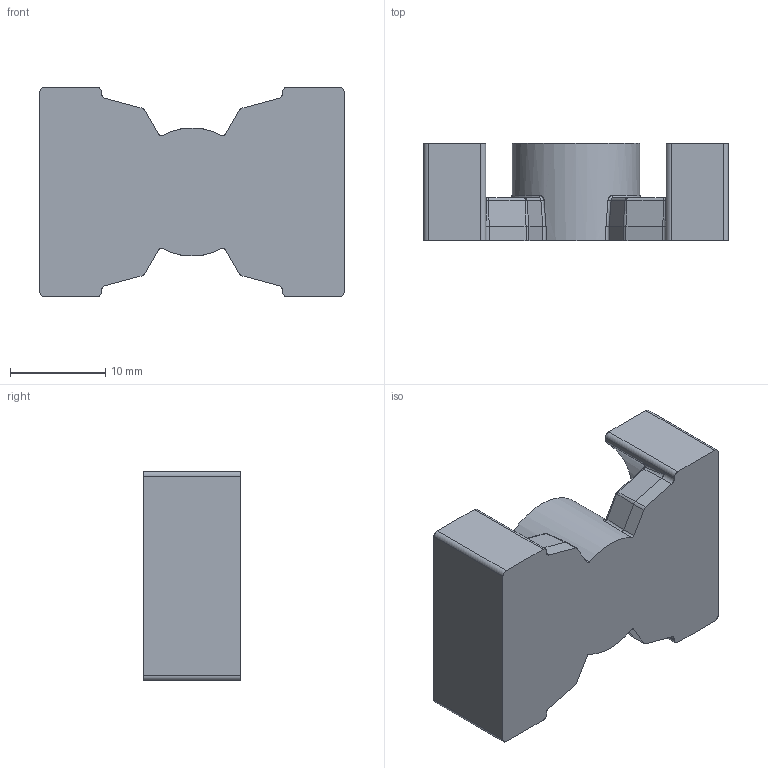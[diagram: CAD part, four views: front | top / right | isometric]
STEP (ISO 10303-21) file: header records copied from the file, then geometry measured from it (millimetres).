
FILE_DESCRIPTION((''),'2;1');
FILE_NAME('C61036-A0482-C001-01-7606','2018-04-06T',('ec7121'),(''),'PRO/ENGINEER BY PARAMETRIC TECHNOLOGY CORPORATION, 2014000','PRO/ENGINEER BY PARAMETRIC TECHNOLOGY CORPORATION, 2014000','');
FILE_SCHEMA(('CONFIG_CONTROL_DESIGN'));
Length unit declared in the file: millimetre
Products named in the file (1): C61036-A0482-C001-01-7606
Bounding box: 32 x 10.25 x 22 mm (x, y, z)
Volume: 4420.7 mm3; surface area: 2602.9 mm2
Topology: 1 solids, 1 shells, 116 faces, 286 edges, 172 vertices
Faces by surface type: cylinder 36, plane 32, bspline 28, cone 8, torus 8, sphere 4
Entity records: 5272 total; most frequent: CARTESIAN_POINT 2666, ORIENTED_EDGE 572, DIRECTION 498, EDGE_CURVE 286, AXIS2_PLACEMENT_3D 192, VERTEX_POINT 172, EDGE_LOOP 116, FACE_OUTER_BOUND 116
